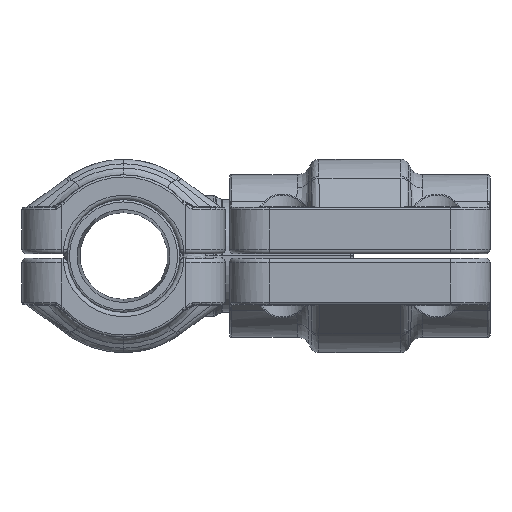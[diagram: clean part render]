
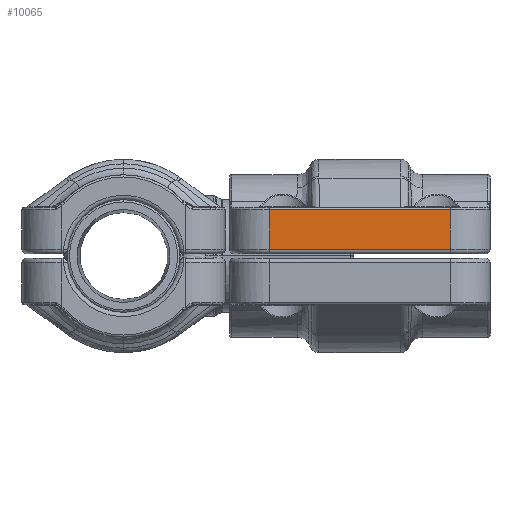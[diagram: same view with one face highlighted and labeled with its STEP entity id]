
A CAD part, left-side view. The second image highlights one B-rep face of the part: STEP entity #10065.
In plain terms, the highlighted planar face has unit normal (-1, 0, 0) as drawn and (0, -1, 0) by its records, which use the part's own axes.
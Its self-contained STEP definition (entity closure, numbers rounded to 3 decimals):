
#5168=DIRECTION('',(-1.,0.,0.));
#5169=VECTOR('',#5168,41.);
#5170=CARTESIAN_POINT('',(20.5,-23.,10.5));
#5171=LINE('',#5170,#5169);
#5182=DIRECTION('',(1.,0.,0.));
#5183=VECTOR('',#5182,41.);
#5184=CARTESIAN_POINT('',(-20.5,-23.,1.5));
#5185=LINE('',#5184,#5183);
#5220=DIRECTION('',(0.,0.,1.));
#5221=VECTOR('',#5220,9.);
#5222=CARTESIAN_POINT('',(20.5,-23.,1.5));
#5223=LINE('',#5222,#5221);
#5343=DIRECTION('',(0.,0.,-1.));
#5344=VECTOR('',#5343,9.);
#5345=CARTESIAN_POINT('',(-20.5,-23.,10.5));
#5346=LINE('',#5345,#5344);
#5959=CARTESIAN_POINT('',(20.5,-23.,10.5));
#5960=VERTEX_POINT('',#5959);
#6008=CARTESIAN_POINT('',(-20.5,-23.,10.5));
#6009=VERTEX_POINT('',#6008);
#6010=CARTESIAN_POINT('',(-20.5,-23.,1.5));
#6011=VERTEX_POINT('',#6010);
#6012=CARTESIAN_POINT('',(20.5,-23.,1.5));
#6013=VERTEX_POINT('',#6012);
#10051=CARTESIAN_POINT('',(29.5,-23.,11.));
#10052=DIRECTION('',(0.,1.,0.));
#10053=DIRECTION('',(0.,0.,-1.));
#10054=AXIS2_PLACEMENT_3D('',#10051,#10052,#10053);
#10055=PLANE('',#10054);
#10057=ORIENTED_EDGE('',*,*,#10056,.F.);
#10059=ORIENTED_EDGE('',*,*,#10058,.F.);
#10060=ORIENTED_EDGE('',*,*,#10043,.F.);
#10062=ORIENTED_EDGE('',*,*,#10061,.F.);
#10063=EDGE_LOOP('',(#10057,#10059,#10060,#10062));
#10064=FACE_OUTER_BOUND('',#10063,.F.);
#10043=EDGE_CURVE('',#5960,#6009,#5171,.T.);
#10056=EDGE_CURVE('',#6011,#6013,#5185,.T.);
#10058=EDGE_CURVE('',#6009,#6011,#5346,.T.);
#10061=EDGE_CURVE('',#6013,#5960,#5223,.T.);
#10065=ADVANCED_FACE('',(#10064),#10055,.F.);
